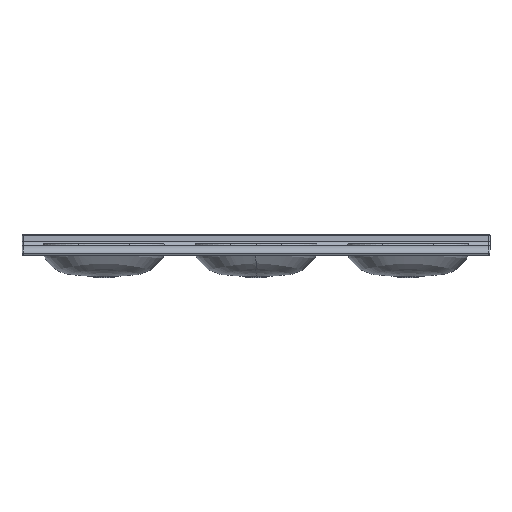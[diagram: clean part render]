
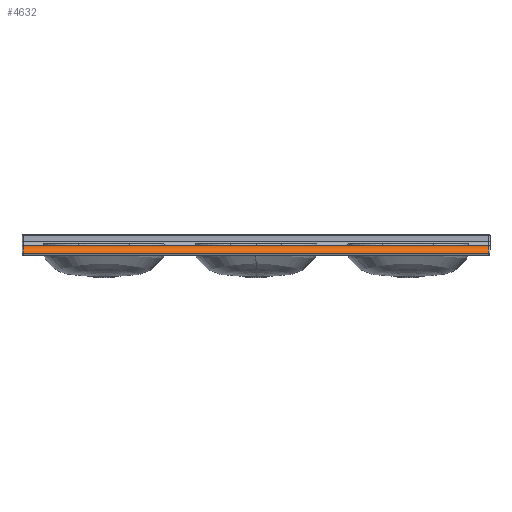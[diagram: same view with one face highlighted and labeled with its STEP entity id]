
A CAD part, top view. The second image highlights one B-rep face of the part: STEP entity #4632.
In plain terms, the highlighted cylindrical face has radius 40 mm (diameter 80 mm), a partial arc.
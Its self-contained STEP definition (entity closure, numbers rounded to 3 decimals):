
#1963 = EDGE_LOOP ( 'NONE', ( #67033, #60652, #73133, #4655 ) ) ;
#1971 = DIRECTION ( 'NONE',  ( 1., 0., 0. ) ) ;
#2038 = DIRECTION ( 'NONE',  ( 1., 0., 0. ) ) ;
#3126 = DIRECTION ( 'NONE',  ( 0., 0., -1. ) ) ;
#4632 = ADVANCED_FACE ( 'NONE', ( #47070 ), #64500, .T. ) ;
#4655 = ORIENTED_EDGE ( 'NONE', *, *, #23161, .T. ) ;
#8249 = DIRECTION ( 'NONE',  ( 0., 0., 1. ) ) ;
#8281 = VERTEX_POINT ( 'NONE', #32277 ) ;
#10121 = EDGE_CURVE ( 'NONE', #8281, #31898, #47243, .T. ) ;
#12371 = DIRECTION ( 'NONE',  ( 1., 0., 0. ) ) ;
#19411 = DIRECTION ( 'NONE',  ( -1., 0., 0. ) ) ;
#23161 = EDGE_CURVE ( 'NONE', #8281, #55977, #71962, .T. ) ;
#23939 = CARTESIAN_POINT ( 'NONE',  ( 1645., 0., 235. ) ) ;
#24203 = CARTESIAN_POINT ( 'NONE',  ( 0., -40., 235. ) ) ;
#24911 = VECTOR ( 'NONE', #12371, 1000. ) ;
#28884 = DIRECTION ( 'NONE',  ( 0., 0., 1. ) ) ;
#31898 = VERTEX_POINT ( 'NONE', #23939 ) ;
#32277 = CARTESIAN_POINT ( 'NONE',  ( -345., 0., 235. ) ) ;
#32562 = CARTESIAN_POINT ( 'NONE',  ( 1645., -40., 235. ) ) ;
#32714 = VECTOR ( 'NONE', #1971, 1000. ) ;
#33609 = VERTEX_POINT ( 'NONE', #35836 ) ;
#35836 = CARTESIAN_POINT ( 'NONE',  ( 1645., -34.286, 274.59 ) ) ;
#38912 = AXIS2_PLACEMENT_3D ( 'NONE', #32562, #19411, #3126 ) ;
#41010 = AXIS2_PLACEMENT_3D ( 'NONE', #24203, #47827, #28884 ) ;
#41511 = EDGE_CURVE ( 'NONE', #55977, #33609, #55041, .T. ) ;
#41974 = EDGE_CURVE ( 'NONE', #33609, #31898, #56208, .T. ) ;
#43796 = CARTESIAN_POINT ( 'NONE',  ( 0., -34.286, 274.59 ) ) ;
#47070 = FACE_OUTER_BOUND ( 'NONE', #1963, .T. ) ;
#47243 = LINE ( 'NONE', #65424, #24911 ) ;
#47827 = DIRECTION ( 'NONE',  ( -1., 0., 0. ) ) ;
#55041 = LINE ( 'NONE', #43796, #32714 ) ;
#55977 = VERTEX_POINT ( 'NONE', #68819 ) ;
#56208 = CIRCLE ( 'NONE', #38912, 40. ) ;
#60652 = ORIENTED_EDGE ( 'NONE', *, *, #41974, .T. ) ;
#62066 = AXIS2_PLACEMENT_3D ( 'NONE', #63125, #2038, #8249 ) ;
#63125 = CARTESIAN_POINT ( 'NONE',  ( -345., -40., 235. ) ) ;
#64500 = CYLINDRICAL_SURFACE ( 'NONE', #41010, 40. ) ;
#65424 = CARTESIAN_POINT ( 'NONE',  ( 1000., 0., 235. ) ) ;
#67033 = ORIENTED_EDGE ( 'NONE', *, *, #41511, .T. ) ;
#68819 = CARTESIAN_POINT ( 'NONE',  ( -345., -34.286, 274.59 ) ) ;
#71962 = CIRCLE ( 'NONE', #62066, 40. ) ;
#73133 = ORIENTED_EDGE ( 'NONE', *, *, #10121, .F. ) ;
